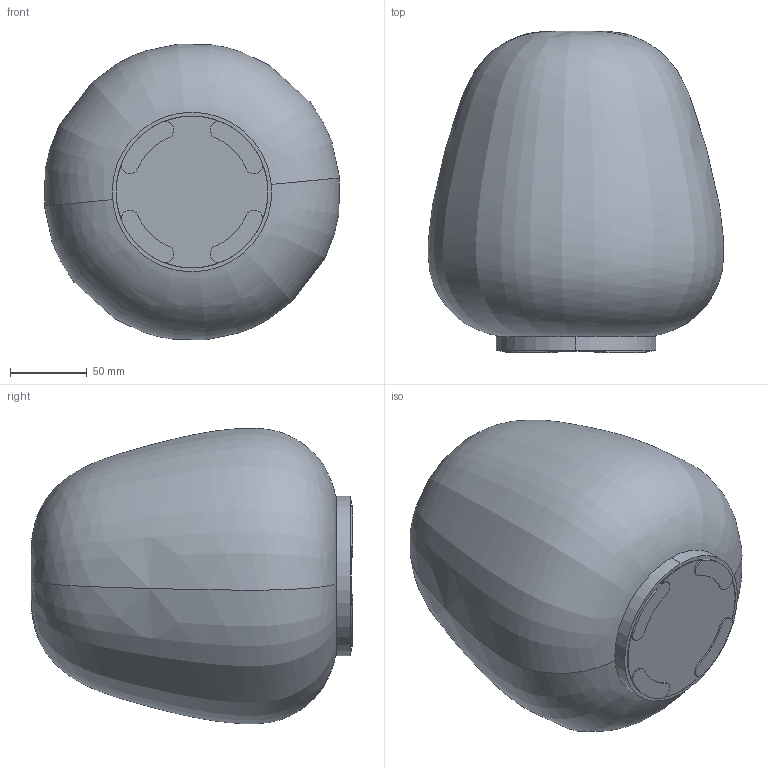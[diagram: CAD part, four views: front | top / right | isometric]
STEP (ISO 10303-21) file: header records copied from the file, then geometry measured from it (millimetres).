
FILE_DESCRIPTION (( 'STEP AP203' ), '1' );
FILE_NAME ('244_3_C_ME_3D.STEP', '2022-08-24T06:48:47', ( '' ), ( '' ), 'SwSTEP 2.0', 'SolidWorks 2022', '' );
FILE_SCHEMA (( 'CONFIG_CONTROL_DESIGN' ));
Length unit declared in the file: millimetre
Products named in the file (1): 244_3_C_ME_3D
Bounding box: 192.36 x 209.51 x 192.55 mm (x, y, z)
Volume: 720920.6 mm3; surface area: 265550.1 mm2
Topology: 2 solids, 2 shells, 44 faces, 104 edges, 68 vertices
Faces by surface type: cylinder 24, plane 12, bspline 4, torus 4
Entity records: 2957 total; most frequent: CARTESIAN_POINT 1815, DIRECTION 254, ORIENTED_EDGE 208, AXIS2_PLACEMENT_3D 113, EDGE_CURVE 104, CIRCLE 72, VERTEX_POINT 68, EDGE_LOOP 48
